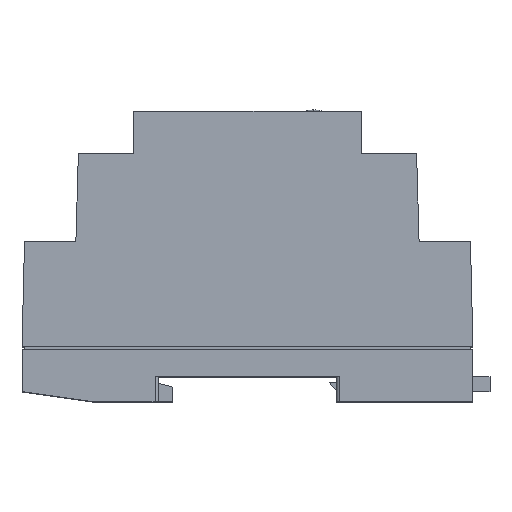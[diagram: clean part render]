
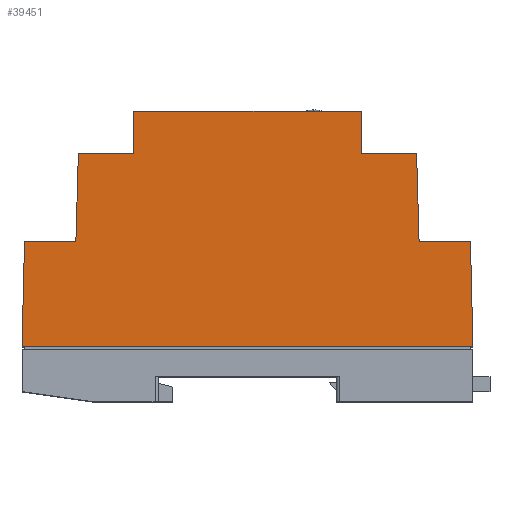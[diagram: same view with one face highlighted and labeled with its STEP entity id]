
A CAD part, top view. The second image highlights one B-rep face of the part: STEP entity #39451.
In plain terms, the highlighted planar face has unit normal (0, 0, 1).
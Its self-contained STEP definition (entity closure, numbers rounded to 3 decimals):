
#1326 = DIRECTION ( 'NONE',  ( -1., 0., 0. ) ) ;
#1922 = LINE ( 'NONE', #50032, #51011 ) ;
#2364 = CARTESIAN_POINT ( 'NONE',  ( -34.25, 21., 0. ) ) ;
#3666 = CARTESIAN_POINT ( 'NONE',  ( 22.75, 38.5, 0. ) ) ;
#4587 = VECTOR ( 'NONE', #40537, 1000. ) ;
#4886 = VERTEX_POINT ( 'NONE', #56173 ) ;
#4960 = LINE ( 'NONE', #19853, #68481 ) ;
#5127 = DIRECTION ( 'NONE',  ( 1., 0., 0. ) ) ;
#5222 = DIRECTION ( 'NONE',  ( -0.029, 1., 0. ) ) ;
#5852 = EDGE_CURVE ( 'NONE', #48132, #4886, #71410, .T. ) ;
#6455 = EDGE_CURVE ( 'NONE', #64084, #48132, #42225, .T. ) ;
#6643 = LINE ( 'NONE', #29830, #39327 ) ;
#7412 = CARTESIAN_POINT ( 'NONE',  ( -34.25, 21., 0. ) ) ;
#10907 = FACE_OUTER_BOUND ( 'NONE', #69741, .T. ) ;
#12763 = VERTEX_POINT ( 'NONE', #2364 ) ;
#13545 = DIRECTION ( 'NONE',  ( 0.029, 1., 0. ) ) ;
#13670 = DIRECTION ( 'NONE',  ( -1., 0., 0. ) ) ;
#15635 = ORIENTED_EDGE ( 'NONE', *, *, #6455, .T. ) ;
#18969 = VECTOR ( 'NONE', #5127, 1000. ) ;
#19345 = VECTOR ( 'NONE', #13670, 1000. ) ;
#19853 = CARTESIAN_POINT ( 'NONE',  ( 45., 0., 0. ) ) ;
#20526 = ORIENTED_EDGE ( 'NONE', *, *, #75519, .F. ) ;
#22234 = CARTESIAN_POINT ( 'NONE',  ( -33.75, 38.5, 0. ) ) ;
#22393 = ORIENTED_EDGE ( 'NONE', *, *, #63256, .F. ) ;
#23004 = EDGE_CURVE ( 'NONE', #56286, #67157, #6643, .T. ) ;
#24456 = CARTESIAN_POINT ( 'NONE',  ( 44.5, 21., 0. ) ) ;
#27676 = VERTEX_POINT ( 'NONE', #27847 ) ;
#27847 = CARTESIAN_POINT ( 'NONE',  ( -22.75, 38.5, 0. ) ) ;
#29621 = ORIENTED_EDGE ( 'NONE', *, *, #73589, .F. ) ;
#29830 = CARTESIAN_POINT ( 'NONE',  ( -45., 0., 0. ) ) ;
#30595 = ORIENTED_EDGE ( 'NONE', *, *, #69070, .T. ) ;
#30853 = AXIS2_PLACEMENT_3D ( 'NONE', #57871, #77583, #40726 ) ;
#31730 = DIRECTION ( 'NONE',  ( 0., 1., 0. ) ) ;
#32193 = VECTOR ( 'NONE', #36173, 1000. ) ;
#35701 = LINE ( 'NONE', #38178, #19345 ) ;
#35905 = CARTESIAN_POINT ( 'NONE',  ( -33.75, 38.5, 0. ) ) ;
#36173 = DIRECTION ( 'NONE',  ( 1., 0., 0. ) ) ;
#36868 = LINE ( 'NONE', #7412, #68827 ) ;
#38178 = CARTESIAN_POINT ( 'NONE',  ( 33.75, 38.5, 0. ) ) ;
#38828 = LINE ( 'NONE', #71677, #69690 ) ;
#39270 = CARTESIAN_POINT ( 'NONE',  ( 44.5, 21., 0. ) ) ;
#39327 = VECTOR ( 'NONE', #79120, 1000. ) ;
#39451 = ADVANCED_FACE ( 'NONE', ( #10907 ), #71446, .F. ) ;
#40537 = DIRECTION ( 'NONE',  ( 0., 1., 0. ) ) ;
#40595 = CARTESIAN_POINT ( 'NONE',  ( -44.5, 21., 0. ) ) ;
#40726 = DIRECTION ( 'NONE',  ( -1., 0., 0. ) ) ;
#40972 = DIRECTION ( 'NONE',  ( 1., 0., 0. ) ) ;
#42225 = LINE ( 'NONE', #24456, #74979 ) ;
#42523 = CARTESIAN_POINT ( 'NONE',  ( 45., 0., 0. ) ) ;
#44170 = VERTEX_POINT ( 'NONE', #22234 ) ;
#44385 = CARTESIAN_POINT ( 'NONE',  ( 0., 47., 0. ) ) ;
#46290 = LINE ( 'NONE', #44385, #62669 ) ;
#46753 = CARTESIAN_POINT ( 'NONE',  ( 22.75, 47., 0. ) ) ;
#48132 = VERTEX_POINT ( 'NONE', #79179 ) ;
#48336 = EDGE_CURVE ( 'NONE', #52025, #79167, #68098, .T. ) ;
#49594 = CARTESIAN_POINT ( 'NONE',  ( -45., 0., 0. ) ) ;
#49759 = LINE ( 'NONE', #78826, #18969 ) ;
#50032 = CARTESIAN_POINT ( 'NONE',  ( -22.75, 38.5, 0. ) ) ;
#51011 = VECTOR ( 'NONE', #31730, 1000. ) ;
#52025 = VERTEX_POINT ( 'NONE', #52288 ) ;
#52288 = CARTESIAN_POINT ( 'NONE',  ( 22.75, 38.5, 0. ) ) ;
#54968 = VECTOR ( 'NONE', #5222, 1000. ) ;
#55127 = ORIENTED_EDGE ( 'NONE', *, *, #73342, .F. ) ;
#55246 = EDGE_CURVE ( 'NONE', #79167, #75489, #46290, .T. ) ;
#56173 = CARTESIAN_POINT ( 'NONE',  ( 33.75, 38.5, 0. ) ) ;
#56286 = VERTEX_POINT ( 'NONE', #49594 ) ;
#57871 = CARTESIAN_POINT ( 'NONE',  ( 0., 47., 0. ) ) ;
#62425 = ORIENTED_EDGE ( 'NONE', *, *, #48336, .T. ) ;
#62669 = VECTOR ( 'NONE', #1326, 1000. ) ;
#63256 = EDGE_CURVE ( 'NONE', #44170, #27676, #64949, .T. ) ;
#63260 = ORIENTED_EDGE ( 'NONE', *, *, #23004, .F. ) ;
#64084 = VERTEX_POINT ( 'NONE', #39270 ) ;
#64502 = EDGE_CURVE ( 'NONE', #4886, #52025, #35701, .T. ) ;
#64527 = EDGE_CURVE ( 'NONE', #73785, #64084, #4960, .T. ) ;
#64949 = LINE ( 'NONE', #35905, #32193 ) ;
#66537 = CARTESIAN_POINT ( 'NONE',  ( 34.25, 21., 0. ) ) ;
#67157 = VERTEX_POINT ( 'NONE', #40595 ) ;
#67534 = DIRECTION ( 'NONE',  ( -1., 0., 0. ) ) ;
#67787 = ORIENTED_EDGE ( 'NONE', *, *, #64527, .T. ) ;
#68098 = LINE ( 'NONE', #3666, #4587 ) ;
#68481 = VECTOR ( 'NONE', #69125, 1000. ) ;
#68827 = VECTOR ( 'NONE', #13545, 1000. ) ;
#69070 = EDGE_CURVE ( 'NONE', #56286, #73785, #49759, .T. ) ;
#69125 = DIRECTION ( 'NONE',  ( -0.024, 1., 0. ) ) ;
#69690 = VECTOR ( 'NONE', #40972, 1000. ) ;
#69741 = EDGE_LOOP ( 'NONE', ( #78049, #20526, #22393, #55127, #29621, #63260, #30595, #67787, #15635, #72007, #73255, #62425 ) ) ;
#71410 = LINE ( 'NONE', #66537, #54968 ) ;
#71446 = PLANE ( 'NONE',  #30853 ) ;
#71677 = CARTESIAN_POINT ( 'NONE',  ( -44.5, 21., 0. ) ) ;
#72007 = ORIENTED_EDGE ( 'NONE', *, *, #5852, .T. ) ;
#73255 = ORIENTED_EDGE ( 'NONE', *, *, #64502, .T. ) ;
#73342 = EDGE_CURVE ( 'NONE', #12763, #44170, #36868, .T. ) ;
#73589 = EDGE_CURVE ( 'NONE', #67157, #12763, #38828, .T. ) ;
#73785 = VERTEX_POINT ( 'NONE', #42523 ) ;
#74037 = CARTESIAN_POINT ( 'NONE',  ( -22.75, 47., 0. ) ) ;
#74979 = VECTOR ( 'NONE', #67534, 1000. ) ;
#75489 = VERTEX_POINT ( 'NONE', #74037 ) ;
#75519 = EDGE_CURVE ( 'NONE', #27676, #75489, #1922, .T. ) ;
#77583 = DIRECTION ( 'NONE',  ( 0., 0., -1. ) ) ;
#78049 = ORIENTED_EDGE ( 'NONE', *, *, #55246, .T. ) ;
#78826 = CARTESIAN_POINT ( 'NONE',  ( 0., 0., 0. ) ) ;
#79120 = DIRECTION ( 'NONE',  ( 0.024, 1., 0. ) ) ;
#79167 = VERTEX_POINT ( 'NONE', #46753 ) ;
#79179 = CARTESIAN_POINT ( 'NONE',  ( 34.25, 21., 0. ) ) ;
